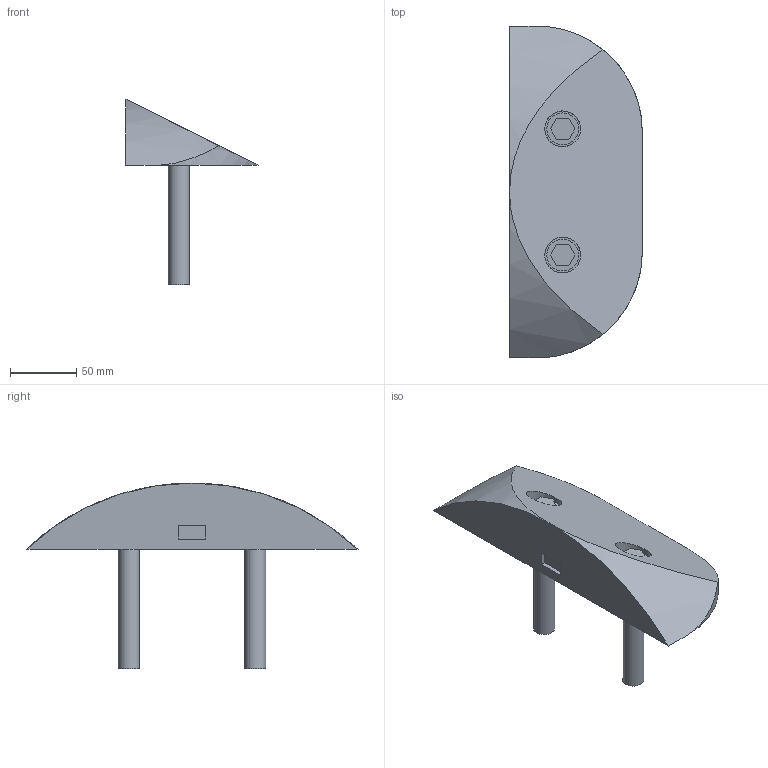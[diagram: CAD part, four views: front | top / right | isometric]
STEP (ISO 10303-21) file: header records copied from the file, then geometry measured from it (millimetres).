
FILE_DESCRIPTION(('FreeCAD Model'),'2;1');
FILE_NAME('Open CASCADE Shape Model','2026-10-04T05:47:53',('FreeCAD'),( 'FreeCAD'),'Open CASCADE STEP processor 7.8','FreeCAD','Unknown');
FILE_SCHEMA(('AUTOMOTIVE_DESIGN { 1 0 10303 214 1 1 1 1 }'));
Length unit declared in the file: millimetre
Products named in the file (1): Open CASCADE STEP translator 7.8 3
Bounding box: 100 x 250 x 140 mm (x, y, z)
Volume: 305384.9 mm3; surface area: 127940.2 mm2
Topology: 5 solids, 6 shells, 69 faces, 155 edges, 103 vertices
Faces by surface type: plane 47, cylinder 22
Full cylindrical faces by diameter (mm): 10 x2, 10.4 x2, 11 x2, 16 x2, 24 x2, 27 x2, 31 x2
Entity records: 2077 total; most frequent: CARTESIAN_POINT 452, DIRECTION 347, ORIENTED_EDGE 310, EDGE_CURVE 155, AXIS2_PLACEMENT_3D 126, VERTEX_POINT 103, LINE 95, VECTOR 95
